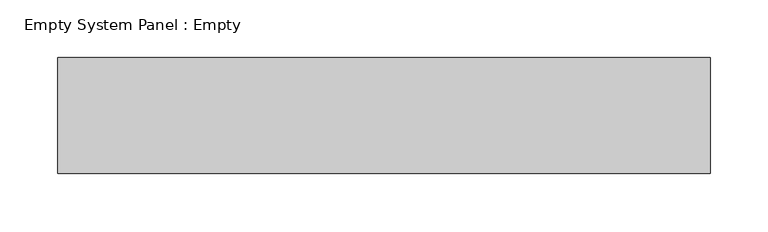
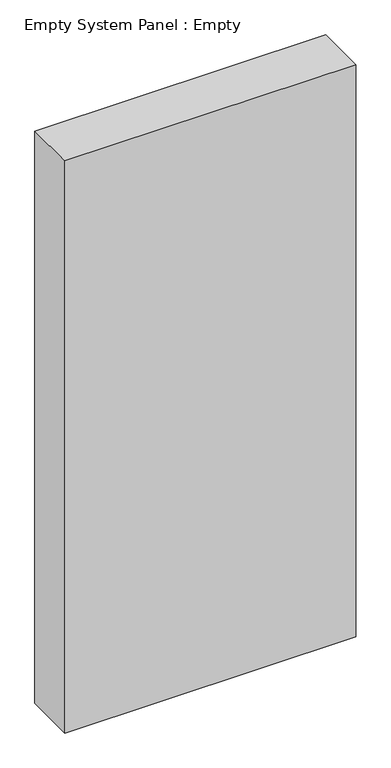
"""IFC4 building model written with IfcOpenShell, lengths in millimetres: plate geometry, Empty System Panel : Empty."""

from ifc_helpers import new_model, si_unit, origin, origin_with_axes, place, context, project, spatial, polyline, outline, extrude, source, transform, mapped, element, save


def empty_system_panel_empty_cdaa3545(model_context):
    return source(origin(), model_context, "Body", "SweptSolid", [
        extrude(outline(polyline([(281.25, -50.0), (-281.25, -50.0), (-281.25, 50.0), (281.25, 50.0), (281.25, -50.0)])), origin_with_axes(), (0.0, 0.0, 1.0), 1170.0),
    ])


if __name__ == "__main__":
    model = new_model("IFC4")
    model_context = context("Model", 3, world=origin())
    ifc_project = project(units=[si_unit("LENGTHUNIT", "METRE", prefix="MILLI")], contexts=[model_context])
    site = spatial("IfcSite", under=ifc_project)
    building = spatial("IfcBuilding", under=site)
    placement = place(None, origin())
    empty_system_panel_empty_shape = empty_system_panel_empty_cdaa3545(model_context)
    element("IfcPlate", 1, ObjectType="Empty System Panel : Empty", at=placement, inside=building, context=model_context, shape_type="MappedRepresentation", body=[
        mapped(empty_system_panel_empty_shape, transform((0.0, 0.0, 0.0), x_axis=(1.0, 0.0, 0.0), y_axis=(0.0, 1.0, 0.0), z_axis=(0.0, 0.0, 1.0))),
    ])
    save(model, "model.ifc")
